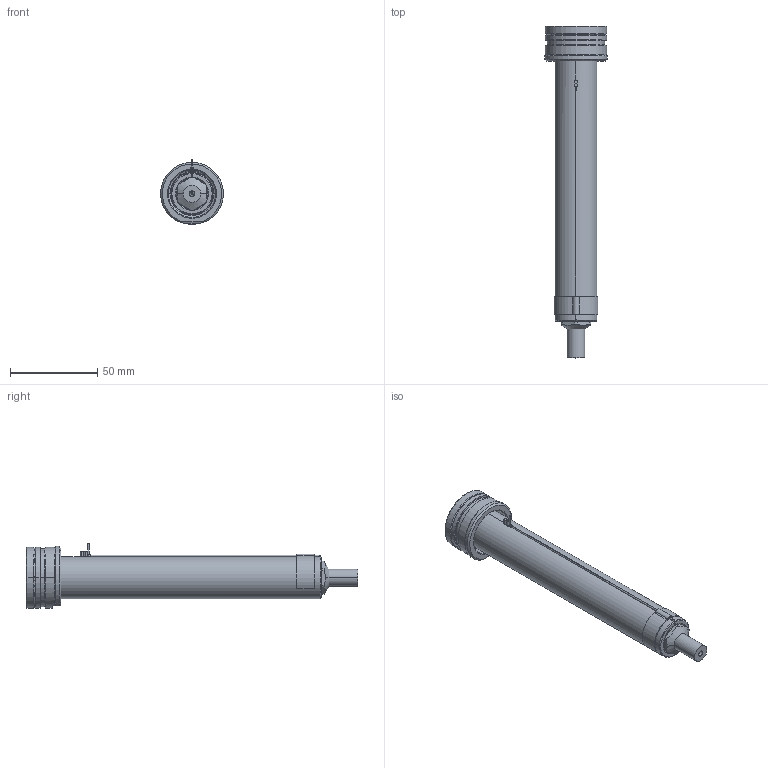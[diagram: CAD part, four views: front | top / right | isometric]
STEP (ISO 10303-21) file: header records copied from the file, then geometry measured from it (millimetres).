
FILE_DESCRIPTION((''),'2;1');
FILE_NAME('EO06_PG-FBE_STD_160_SW','2024-02-19T11:51:06',('sundharh'),(''),'CREO PARAMETRIC BY PTC INC, 2023154','CREO PARAMETRIC BY PTC INC, 2023154','');
FILE_SCHEMA(('CONFIG_CONTROL_DESIGN'));
Length unit declared in the file: millimetre
Products named in the file (1): EO06_PG-FBE_STD_160_SW
Bounding box: 35.93 x 190 x 37 mm (x, y, z)
Volume: 82343 mm3; surface area: 23406.5 mm2
Topology: 2 solids, 2 shells, 212 faces, 568 edges, 348 vertices
Faces by surface type: cylinder 85, plane 55, cone 42, torus 21, bspline 6, sphere 3
Entity records: 7687 total; most frequent: CARTESIAN_POINT 2302, DIRECTION 1187, ORIENTED_EDGE 1120, EDGE_CURVE 560, AXIS2_PLACEMENT_3D 499, VERTEX_POINT 348, CIRCLE 293, EDGE_LOOP 228
